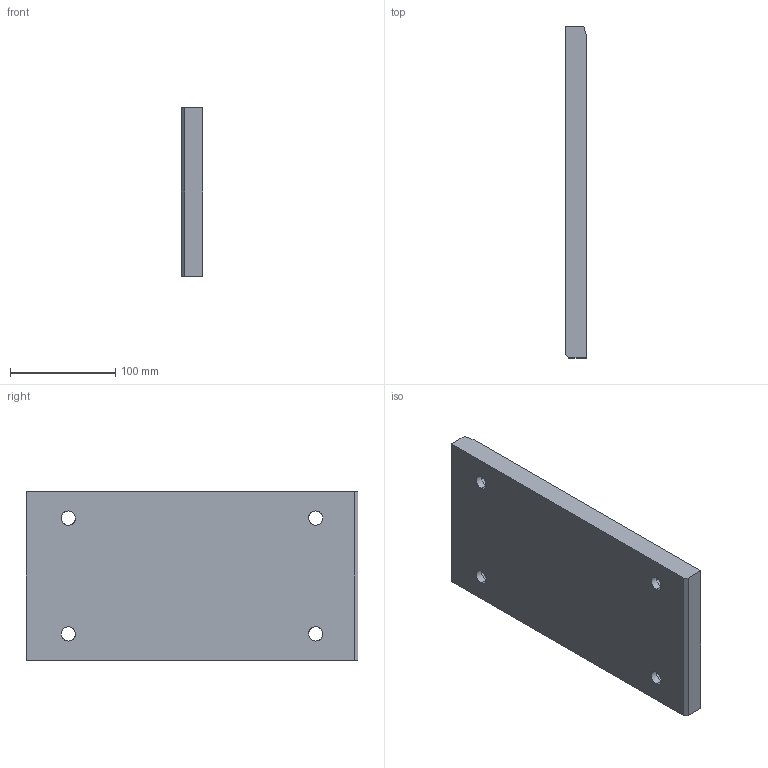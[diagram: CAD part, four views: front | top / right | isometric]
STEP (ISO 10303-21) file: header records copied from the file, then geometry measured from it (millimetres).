
FILE_DESCRIPTION(('CATIA V5 STEP Exchange'),'2;1');
FILE_NAME('C:\Users\borellobunino\Desktop\3D X SITO CF\A915\GSB_OILLESS_G22501160315\STEP-2.03\A915-160X315.stp','2019-07-14T14:28:21+00:00',('none'),('none'),'CATIA Version 5 Release 20 GA (IN-10)','CATIA V5 STEP AP203','none');
FILE_SCHEMA(('CONFIG_CONTROL_DESIGN'));
Length unit declared in the file: millimetre
Products named in the file (1): A915-160X315
Bounding box: 20 x 315 x 160 mm (x, y, z)
Volume: 984271.3 mm3; surface area: 122111.6 mm2
Topology: 1 solids, 1 shells, 37 faces, 125 edges, 94 vertices
Faces by surface type: cylinder 17, plane 12, torus 8
Entity records: 1817 total; most frequent: CARTESIAN_POINT 705, ORIENTED_EDGE 250, DIRECTION 167, EDGE_CURVE 125, AXIS2_PLACEMENT_3D 96, VERTEX_POINT 94, CIRCLE 58, EDGE_LOOP 49
